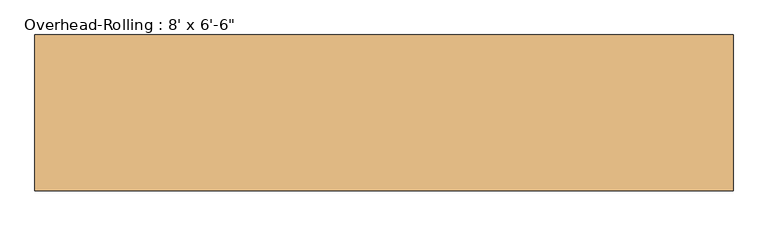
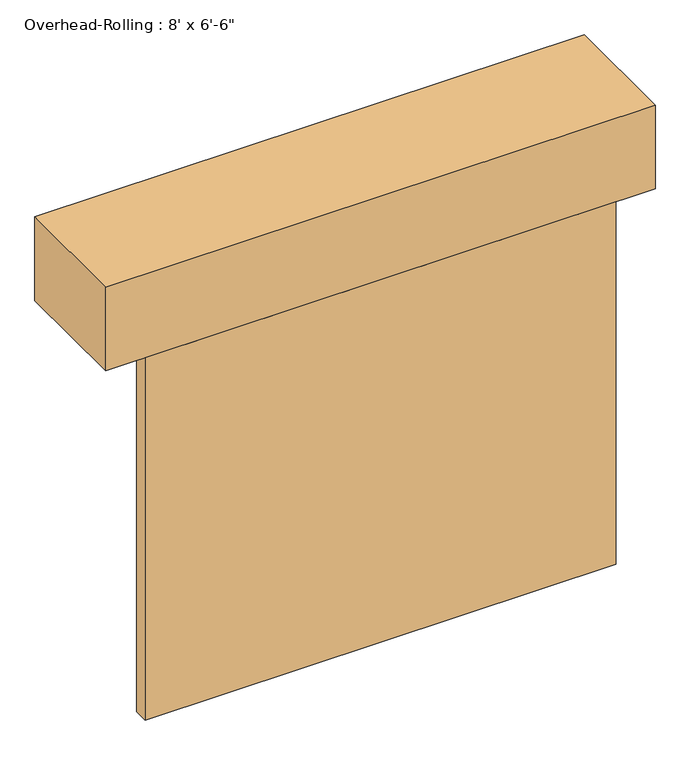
"""IFC4 building model written with IfcOpenShell, lengths in millimetres: door geometry."""

import ifcopenshell
import ifcopenshell.guid

model = None  # the IFC model being written
_history = None  # IfcOwnerHistory: only IFC2X3 demands one
_inside = {}  # id of a spatial element -> (the spatial element, [elements in it])
_under = {}  # id of a project, library or spatial element -> (it, [spatial elements below it])
_declared = {}  # id of a project -> (the project, [libraries it declares])
_typed = {}  # id of a type object -> (the type object, [elements of that type])
_made_of = {}  # id of a material, layer set ... -> (it, [elements and type objects made of it])


def new_model(schema):
    """Start an empty IFC model of exactly this schema.

    Asked for "IFC4X3", IfcOpenShell would pick the latest addendum, in which some entities
    have other attributes; the version numbers below select the first issue.
    IFC2X3 requires an IfcOwnerHistory on every rooted entity: one is made here for all.
    """
    global model, _history
    if schema == "IFC4X3":
        model = ifcopenshell.file(schema_version=(4, 3, 0, 0))
    else:
        model = ifcopenshell.file(schema=schema)
    _inside.clear()
    _under.clear()
    _declared.clear()
    _typed.clear()
    _made_of.clear()
    _history = None
    if model.schema == "IFC2X3":
        org = make("IfcOrganization", Name="unknown")
        user = make(
            "IfcPersonAndOrganization",
            ThePerson=make("IfcPerson", FamilyName="unknown"),
            TheOrganization=org,
        )
        app = make(
            "IfcApplication",
            ApplicationDeveloper=org,
            Version="unknown",
            ApplicationFullName="unknown",
            ApplicationIdentifier="unknown",
        )
        _history = make(
            "IfcOwnerHistory",
            OwningUser=user,
            OwningApplication=app,
            ChangeAction="ADDED",
            CreationDate=0,
        )
    return model


def make(cls, **values):
    """One entity of the class cls with the attributes given. An attribute that is None is left unset."""
    return model.create_entity(
        cls, **{name: value for name, value in values.items() if value is not None}
    )


def rooted(cls, **values):
    """An entity with a GlobalId (a new one), such as an element, a storey or a relation."""
    return make(cls, GlobalId=ifcopenshell.guid.new(), OwnerHistory=_history, **values)


def si_unit(unit_type, name, prefix=None):
    """IfcSIUnit, for example si_unit("LENGTHUNIT", "METRE", prefix="MILLI")."""
    return make("IfcSIUnit", UnitType=unit_type, Prefix=prefix, Name=name)


def assignment(units):
    """IfcUnitAssignment: the units of a project."""
    return None if units is None else make("IfcUnitAssignment", Units=units)


def point(xyz):
    """IfcCartesianPoint."""
    return None if xyz is None else make("IfcCartesianPoint", Coordinates=xyz)


def direction(xyz):
    """IfcDirection."""
    return None if xyz is None else make("IfcDirection", DirectionRatios=xyz)


def frame(location, z_axis=None, x_axis=None):
    """IfcAxis2Placement3D, a coordinate frame: its origin and axes. An axis left out is left unset."""
    return make(
        "IfcAxis2Placement3D",
        Location=point(location),
        Axis=direction(z_axis),
        RefDirection=direction(x_axis),
    )


def origin():
    """The frame at (0, 0, 0) with its axes left unset."""
    return frame((0.0, 0.0, 0.0))


def origin_with_axes():
    """The frame at (0, 0, 0) with the z axis (0, 0, 1) and the x axis (1, 0, 0) written out."""
    return frame((0.0, 0.0, 0.0), z_axis=(0.0, 0.0, 1.0), x_axis=(1.0, 0.0, 0.0))


def place(relative_to, where):
    """IfcLocalPlacement: puts the frame where relative to a parent placement (None: the world)."""
    return make(
        "IfcLocalPlacement", PlacementRelTo=relative_to, RelativePlacement=where
    )


def context(
    kind, dimensions, precision=None, world=None, true_north=None, identifier=None
):
    """IfcGeometricRepresentationContext, for example the 3D "Model" context."""
    return make(
        "IfcGeometricRepresentationContext",
        ContextIdentifier=identifier,
        ContextType=kind,
        CoordinateSpaceDimension=dimensions,
        Precision=precision,
        WorldCoordinateSystem=world,
        TrueNorth=true_north,
    )


def project(units=None, contexts=None):
    """IfcProject with its units and contexts."""
    return rooted(
        "IfcProject",
        Name="project",
        RepresentationContexts=contexts,
        UnitsInContext=assignment(units),
    )


def spatial(cls, under=None, at=None, **own):
    """A site, building, storey or space (cls), placed at a placement, below another one or the project."""
    s = rooted(cls, ObjectPlacement=at, **own)
    if under is not None:
        _under.setdefault(under.id(), (under, []))[1].append(s)
    return s


def polyline(points):
    """IfcPolyline through the points."""
    return make("IfcPolyline", Points=[point(p) for p in points])


def outline(outer, holes=None, kind="AREA"):
    """IfcArbitraryClosedProfileDef: a profile drawn as a closed curve; with holes, ...WithVoids."""
    if holes is None:
        return make("IfcArbitraryClosedProfileDef", ProfileType=kind, OuterCurve=outer)
    return make(
        "IfcArbitraryProfileDefWithVoids",
        ProfileType=kind,
        OuterCurve=outer,
        InnerCurves=holes,
    )


def extrude(swept, where, along, depth):
    """IfcExtrudedAreaSolid: the profile swept, set in the frame where, extruded along a direction by depth."""
    return make(
        "IfcExtrudedAreaSolid",
        SweptArea=swept,
        Position=where,
        ExtrudedDirection=direction(along),
        Depth=depth,
    )


def shape(context_of_items, identifier, shape_type, items):
    """IfcShapeRepresentation: the items that make up one representation, for example the "Body"."""
    return make(
        "IfcShapeRepresentation",
        ContextOfItems=context_of_items,
        RepresentationIdentifier=identifier,
        RepresentationType=shape_type,
        Items=items,
    )


def source(mapping_origin, context_of_items, identifier, shape_type, items):
    """IfcRepresentationMap: a shape defined once, which mapped items show again and again."""
    return make(
        "IfcRepresentationMap",
        MappingOrigin=mapping_origin,
        MappedRepresentation=shape(context_of_items, identifier, shape_type, items),
    )


def transform(
    local_origin,
    x_axis=None,
    y_axis=None,
    z_axis=None,
    scale=None,
    scale2=None,
    scale3=None,
    uniform=True,
):
    """IfcCartesianTransformationOperator3D, or its non-uniform kind. x_axis, y_axis, z_axis: its Axis1, 2, 3."""
    if uniform:
        return make(
            "IfcCartesianTransformationOperator3D",
            Axis1=direction(x_axis),
            Axis2=direction(y_axis),
            LocalOrigin=point(local_origin),
            Scale=scale,
            Axis3=direction(z_axis),
        )
    return make(
        "IfcCartesianTransformationOperator3DnonUniform",
        Axis1=direction(x_axis),
        Axis2=direction(y_axis),
        LocalOrigin=point(local_origin),
        Scale=scale,
        Axis3=direction(z_axis),
        Scale2=scale2,
        Scale3=scale3,
    )


def mapped(mapping_source, mapping_target):
    """IfcMappedItem: shows the shape of a source again, moved by a transform."""
    return make(
        "IfcMappedItem", MappingSource=mapping_source, MappingTarget=mapping_target
    )


def made_of(thing, what):
    """Note that an element or type object is made of a material, layer set ...; save() writes the relation."""
    if what is not None:
        _made_of.setdefault(what.id(), (what, []))[1].append(thing)
    return thing


def element(
    cls,
    number,
    at=None,
    inside=None,
    cuts=None,
    type_object=None,
    material=None,
    context=None,
    identifier="Body",
    shape_type=None,
    held_by="IfcProductDefinitionShape",
    body=None,
    shapes=None,
    **own,
):
    """One element of the class cls, such as IfcWall. Its Tag is "e" and its number.

    at: its placement. inside: the storey or other place that contains it. cuts: it is an
    opening in that element (IfcRelVoidsElement). A single representation is given by context,
    identifier, shape_type and body (its items); several are given by shapes. held_by: the class
    of the entity that holds the representations. save() writes the other relations.
    """
    e = rooted(cls, Tag="e%d" % number, ObjectPlacement=at, **own)
    if body is not None:
        shapes = [shape(context, identifier, shape_type, body)]
    if shapes is not None:
        e.Representation = make(held_by, Representations=shapes)
    if inside is not None:
        _inside.setdefault(inside.id(), (inside, []))[1].append(e)
    if cuts is not None:
        rooted(
            "IfcRelVoidsElement", RelatingBuildingElement=cuts, RelatedOpeningElement=e
        )
    if type_object is not None:
        _typed.setdefault(type_object.id(), (type_object, []))[1].append(e)
    return made_of(e, material)


def aggregate(whole, parts):
    """IfcRelAggregates: a whole, such as a stair, and the parts it consists of."""
    return rooted("IfcRelAggregates", RelatingObject=whole, RelatedObjects=parts)


def save(model, path):
    """Write the relations noted so far, then the file.

    IfcRelAggregates (storeys below a building ...), IfcRelContainedInSpatialStructure (elements
    in a storey), IfcRelDefinesByType, IfcRelAssociatesMaterial and IfcRelDeclares: one each for
    every whole, place, type object, material and project.
    """
    for whole, parts in _under.values():
        aggregate(whole, parts)
    for where, things in _inside.values():
        rooted(
            "IfcRelContainedInSpatialStructure",
            RelatedElements=things,
            RelatingStructure=where,
        )
    for kind, things in _typed.values():
        rooted("IfcRelDefinesByType", RelatedObjects=things, RelatingType=kind)
    for what, things in _made_of.values():
        rooted("IfcRelAssociatesMaterial", RelatedObjects=things, RelatingMaterial=what)
    for by, libraries in _declared.values():
        rooted("IfcRelDeclares", RelatingContext=by, RelatedDefinitions=libraries)
    model.write(path)


def door_09d20fc0(model_context):
    return source(origin(), model_context, "Body", "SweptSolid", [
        extrude(outline(polyline([(1219.2, 227.0125), (-1219.2, 227.0125), (-1219.2, 303.2125), (1219.2, 303.2125), (1219.2, 227.0125)])), origin_with_axes(), (0.0, 0.0, 1.0), 1981.2),
        extrude(outline(polyline([(1422.4, 862.0125), (1422.4, 227.0125), (-1422.4, 227.0125), (-1422.4, 862.0125), (1422.4, 862.0125)])), frame((0.0, 0.0, 1981.2), z_axis=(0.0, 0.0, 1.0), x_axis=(1.0, 0.0, 0.0)), (0.0, 0.0, 1.0), 457.2),
    ])


if __name__ == "__main__":
    model = new_model("IFC4")
    model_context = context("Model", 3, world=origin())
    ifc_project = project(units=[si_unit("LENGTHUNIT", "METRE", prefix="MILLI")], contexts=[model_context])
    site = spatial("IfcSite", under=ifc_project)
    building = spatial("IfcBuilding", under=site)
    placement = place(None, origin())
    door_shape = door_09d20fc0(model_context)
    element("IfcDoor", 1, ObjectType="Overhead-Rolling : 8' x 6'-6\"", at=placement, inside=building, context=model_context, shape_type="MappedRepresentation", body=[
        mapped(door_shape, transform((0.0, 0.0, 0.0), x_axis=(1.0, 0.0, 0.0), y_axis=(0.0, 1.0, 0.0), z_axis=(0.0, 0.0, 1.0))),
    ])
    save(model, "model.ifc")
